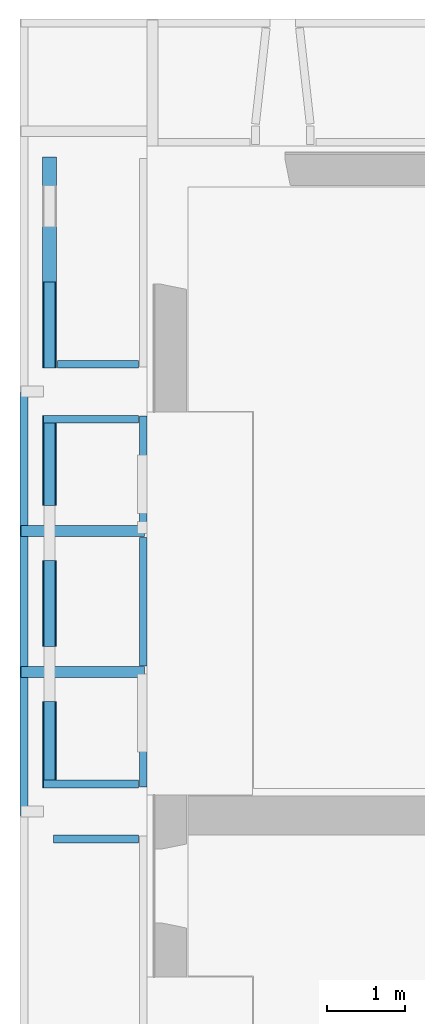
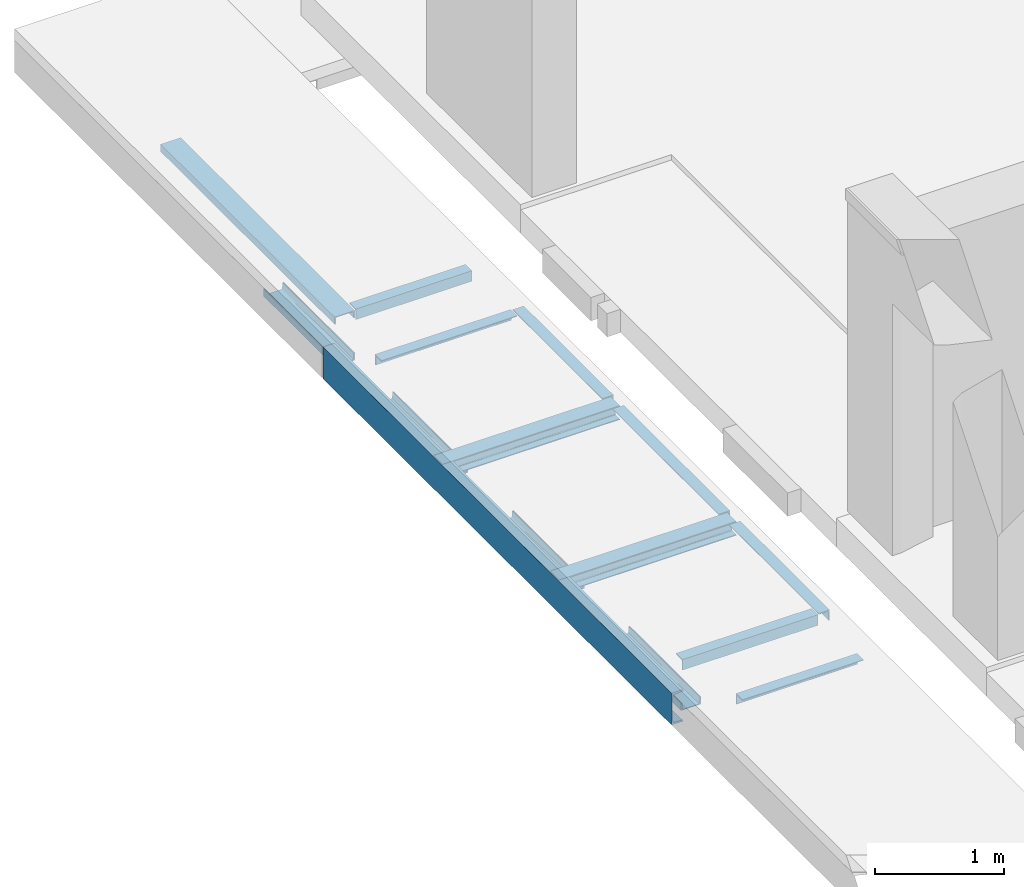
# One storey, part 4 of 27: 15 beams.
"""IFC2X3 building model written with IfcOpenShell, lengths in millimetres."""

from ifc_helpers import new_model, entity, si_unit, converted_unit, derived_unit, direction, frame, frame_2d, origin, place, context, subcontext, project, spatial, polyline, circle_curve, parameter, trimmed, segment, composite_curve, i_section, outline, extrude, material, type_object, element, save


model = new_model("IFC2X3")

# Units and contexts
model_context = context("Model", 3, precision=0.01, world=origin(), true_north=direction((6.12303176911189e-17, 1.0)))
body_context = subcontext(model_context, "Body", "Model", "MODEL_VIEW")
ifc_project = project(units=[si_unit("LENGTHUNIT", "METRE", prefix="MILLI"), si_unit("AREAUNIT", "SQUARE_METRE"), si_unit("VOLUMEUNIT", "CUBIC_METRE"), converted_unit("PLANEANGLEUNIT", "DEGREE", entity("IfcRatioMeasure", 0.0174532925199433), si_unit("PLANEANGLEUNIT", "RADIAN"), dimensions=[0, 0, 0, 0, 0, 0, 0]), si_unit("MASSUNIT", "GRAM", prefix="KILO"), derived_unit("MASSDENSITYUNIT", [(si_unit("MASSUNIT", "GRAM", prefix="KILO"), 1), (si_unit("LENGTHUNIT", "METRE"), -3)]), si_unit("TIMEUNIT", "SECOND"), si_unit("FREQUENCYUNIT", "HERTZ"), si_unit("THERMODYNAMICTEMPERATUREUNIT", "DEGREE_CELSIUS"), derived_unit("THERMALTRANSMITTANCEUNIT", [(si_unit("MASSUNIT", "GRAM", prefix="KILO"), 1), (si_unit("THERMODYNAMICTEMPERATUREUNIT", "KELVIN"), -1), (si_unit("TIMEUNIT", "SECOND"), -3)]), derived_unit("VOLUMETRICFLOWRATEUNIT", [(si_unit("LENGTHUNIT", "METRE"), 3), (si_unit("TIMEUNIT", "SECOND"), -1)]), si_unit("ELECTRICCURRENTUNIT", "AMPERE"), si_unit("ELECTRICVOLTAGEUNIT", "VOLT"), si_unit("POWERUNIT", "WATT"), si_unit("FORCEUNIT", "NEWTON", prefix="KILO"), si_unit("ILLUMINANCEUNIT", "LUX"), si_unit("LUMINOUSFLUXUNIT", "LUMEN"), si_unit("LUMINOUSINTENSITYUNIT", "CANDELA"), derived_unit("USERDEFINED", [(si_unit("MASSUNIT", "GRAM", prefix="KILO"), -1), (si_unit("LENGTHUNIT", "METRE"), -2), (si_unit("TIMEUNIT", "SECOND"), 3), (si_unit("LUMINOUSFLUXUNIT", "LUMEN"), 1)]), derived_unit("LINEARVELOCITYUNIT", [(si_unit("LENGTHUNIT", "METRE"), 1), (si_unit("TIMEUNIT", "SECOND"), -1)]), si_unit("PRESSUREUNIT", "PASCAL"), derived_unit("USERDEFINED", [(si_unit("LENGTHUNIT", "METRE"), -2), (si_unit("MASSUNIT", "GRAM", prefix="KILO"), 1), (si_unit("TIMEUNIT", "SECOND"), -2)])], contexts=[model_context])

# Site, building, storey
site_placement = place(None, origin())
site = spatial("IfcSite", under=ifc_project, at=site_placement, Name="Default", CompositionType="ELEMENT")
building_placement = place(site_placement, origin())
building = spatial("IfcBuilding", under=site, at=building_placement, Name="niet gebruiken", CompositionType="ELEMENT")
storey_placement = place(building_placement, frame((0.0, 0.0, 18000.0)))
storey = spatial("IfcBuildingStorey", under=building, at=storey_placement, Name="05 vijfde verdieping", CompositionType="ELEMENT", Elevation=18000.0)

# Beams
ifc_material = material(Name="NLRS_h2_staal")
beam_type_1 = type_object("IfcBeamType", Name="NLRS_28.11_SF_WPB_stalen ligger HEA_gen:ligger HEA 140", PredefinedType="BEAM")
beam_1_placement = place(storey_placement, frame((125990.0, 28325.0, -1015.0), z_axis=(0.0, 0.0, 1.0), x_axis=(-1.0, 0.0, 0.0)))
element("IfcBeam", 1, at=beam_1_placement, inside=storey, type_object=beam_type_1, material=ifc_material, Name="NLRS_28.11_SF_WPB_stalen ligger HEA_gen:ligger HEA 140", ObjectType="NLRS_28.11_SF_WPB_stalen ligger HEA_gen:ligger HEA 140", context=body_context, shape_type="SweptSolid", body=[
    extrude(i_section(OverallWidth=140.000000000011, OverallDepth=133.000000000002, WebThickness=5.4999999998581, FlangeThickness=8.50000000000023, FilletRadius=12.0000000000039, at=frame_2d((-3.24718030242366e-12, -4.32720526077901e-12), x_axis=(0.0, 1.0))), frame((0.0, 0.0, -66.5000000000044), z_axis=(1.0, 0.0, 0.0), x_axis=(0.0, 0.0, -1.0)), (0.0, 0.0, 1.0), 1579.99999999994),
])
beam_2_placement = place(storey_placement, frame((125990.0, 26525.0, -1015.0), z_axis=(0.0, 0.0, 1.0), x_axis=(-1.0, 0.0, 0.0)))
element("IfcBeam", 2, at=beam_2_placement, inside=storey, type_object=beam_type_1, material=ifc_material, Name="NLRS_28.11_SF_WPB_stalen ligger HEA_gen:ligger HEA 140", ObjectType="NLRS_28.11_SF_WPB_stalen ligger HEA_gen:ligger HEA 140", context=body_context, shape_type="SweptSolid", body=[
    extrude(i_section(OverallWidth=140.000000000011, OverallDepth=133.000000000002, WebThickness=5.4999999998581, FlangeThickness=8.50000000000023, FilletRadius=12.0000000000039, at=frame_2d((-3.24718030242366e-12, 0.0), x_axis=(0.0, 1.0))), frame((0.0, 0.0, -66.5000000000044), z_axis=(1.0, 0.0, 0.0), x_axis=(0.0, 0.0, -1.0)), (0.0, 0.0, 1.0), 1579.99999999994),
])
beam_type_2 = type_object("IfcBeamType", Name="NLRS_28.11_SF_WPB_stalen ligger UNP_gen:ligger UNP 300", PredefinedType="BEAM")
beam_3_placement = place(storey_placement, frame((124427.0, 30100.0, -1015.0), z_axis=(0.0, 0.0, 1.0), x_axis=(0.0, -1.0, 0.0)))
element("IfcBeam", 3, at=beam_3_placement, inside=storey, type_object=beam_type_2, material=ifc_material, Name="NLRS_28.11_SF_WPB_stalen ligger UNP_gen:ligger UNP 300", ObjectType="NLRS_28.11_SF_WPB_stalen ligger UNP_gen:ligger UNP 300", context=body_context, shape_type="SweptSolid", body=[
    extrude(outline(composite_curve([segment(polyline([(-150.062397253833, -54.6666666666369), (149.937602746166, -54.6666666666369)]), True, "CONTINUOUS"), segment(polyline([(149.937602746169, -54.6666666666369), (149.937602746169, 45.3333333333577)]), True, "CONTINUOUS"), segment(polyline([(149.937602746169, 45.3333333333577), (142.655201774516, 45.3333333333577)]), True, "CONTINUOUS"), segment(trimmed(circle_curve(frame_2d((142.655201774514, 37.3333333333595), x_axis=(0.0, 1.0)), 7.99999999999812), [parameter(0.0)], [parameter(90.0000000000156)], True, "PARAMETER"), True, "CONTINUOUS"), segment(polyline([(134.655201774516, 37.3333333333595), (130.39041273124, -28.6666666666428)]), True, "CONTINUOUS"), segment(trimmed(circle_curve(frame_2d((114.39041273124, -28.6666666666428), x_axis=(1.0, 0.0)), 15.9999999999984), [parameter(270.0)], [parameter(0.0)], True, "PARAMETER"), False, "CONTINUOUS"), segment(polyline([(114.390412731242, -44.6666666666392), (-113.875860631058, -44.6666666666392)]), True, "CONTINUOUS"), segment(trimmed(circle_curve(frame_2d((-113.875860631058, -28.6666666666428), x_axis=(0.0, -1.0)), 15.9999999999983), [parameter(270.0)], [parameter(0.0)], True, "PARAMETER"), False, "CONTINUOUS"), segment(polyline([(-129.875860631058, -28.6666666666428), (-135.044959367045, 37.3333333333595)]), True, "CONTINUOUS"), segment(trimmed(circle_curve(frame_2d((-143.044959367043, 37.3333333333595), x_axis=(1.0, 0.0)), 7.9999999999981), [parameter(0.0)], [parameter(90.0000000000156)], True, "PARAMETER"), True, "CONTINUOUS"), segment(polyline([(-143.044959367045, 45.3333333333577), (-150.062397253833, 45.3333333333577)]), True, "CONTINUOUS"), segment(polyline([(-150.062397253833, 45.3333333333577), (-150.062397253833, -54.6666666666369)]), True, "CONTINUOUS")], self_intersect=False)), frame((12.7000006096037, 27.6666666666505, -150.062397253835), z_axis=(1.0, 0.0, 0.0), x_axis=(0.0, 0.0, -1.0)), (0.0, 0.0, 1.0), 5387.29999939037),
])
beam_type_3 = type_object("IfcBeamType", Name="NLRS_28.11_SF_WPB_stalen ligger hoekprofiel gelijkzijdig_gen:ligger gelijzijdig hoekprofiel LEQU_100x100x10", PredefinedType="BEAM")
beam_4_placement = place(storey_placement, frame((126020.0, 28255.0, -1015.0), z_axis=(0.0, 0.0, 1.0), x_axis=(0.0, -1.0, 0.0)))
element("IfcBeam", 4, at=beam_4_placement, inside=storey, type_object=beam_type_3, material=ifc_material, Name="NLRS_28.11_SF_WPB_stalen ligger hoekprofiel gelijkzijdig_gen:ligger gelijzijdig hoekprofiel LEQU_100x100x10", ObjectType="NLRS_28.11_SF_WPB_stalen ligger hoekprofiel gelijkzijdig_gen:ligger gelijzijdig hoekprofiel LEQU_100x100x10", context=body_context, shape_type="SweptSolid", body=[
    extrude(outline(composite_curve([segment(polyline([(-37.7777777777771, -62.2222222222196), (-33.7777777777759, -62.2222222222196)]), True, "CONTINUOUS"), segment(trimmed(circle_curve(frame_2d((-33.7777777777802, -56.2222222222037), x_axis=(0.0, -1.0)), 6.00000000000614), [parameter(0.0)], [parameter(89.9999999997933)], True, "PARAMETER"), True, "CONTINUOUS"), segment(polyline([(-27.7777777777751, -56.222222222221), (-27.7777777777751, 15.77777777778)]), True, "CONTINUOUS"), segment(trimmed(circle_curve(frame_2d((-15.7777777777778, 15.77777777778), x_axis=(-1.0, 0.0)), 11.9999999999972), [parameter(269.99999999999)], [parameter(0.0)], True, "PARAMETER"), False, "CONTINUOUS"), segment(polyline([(-15.7777777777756, 27.7777777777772), (56.2222222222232, 27.7777777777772)]), True, "CONTINUOUS"), segment(trimmed(circle_curve(frame_2d((56.2222222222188, 33.7777777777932), x_axis=(0.0, -1.0)), 6.00000000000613), [parameter(0.0)], [parameter(89.9999999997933)], True, "PARAMETER"), True, "CONTINUOUS"), segment(polyline([(62.222222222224, 33.7777777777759), (62.222222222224, 37.777777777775)]), True, "CONTINUOUS"), segment(polyline([(62.222222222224, 37.777777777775), (-37.7777777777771, 37.777777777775)]), True, "CONTINUOUS"), segment(polyline([(-37.7777777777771, 37.777777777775), (-37.7777777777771, -62.2222222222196)]), True, "CONTINUOUS")], self_intersect=False)), frame((10.0, -37.777777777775, -37.7777777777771), z_axis=(1.0, 0.0, 0.0), x_axis=(0.0, 0.0, -1.0)), (0.0, 0.0, 1.0), 1639.99999999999),
])
beam_5_placement = place(storey_placement, frame((126020.0, 30013.0, -1015.0), z_axis=(0.0, 0.0, 1.0), x_axis=(0.0, -1.0, 0.0)))
element("IfcBeam", 5, at=beam_5_placement, inside=storey, type_object=beam_type_3, material=ifc_material, Name="NLRS_28.11_SF_WPB_stalen ligger hoekprofiel gelijkzijdig_gen:ligger gelijzijdig hoekprofiel LEQU_100x100x10", ObjectType="NLRS_28.11_SF_WPB_stalen ligger hoekprofiel gelijkzijdig_gen:ligger gelijzijdig hoekprofiel LEQU_100x100x10", context=body_context, shape_type="SweptSolid", body=[
    extrude(outline(composite_curve([segment(polyline([(-37.7777777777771, -62.2222222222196), (-33.7777777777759, -62.2222222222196)]), True, "CONTINUOUS"), segment(trimmed(circle_curve(frame_2d((-33.7777777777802, -56.2222222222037), x_axis=(0.0, -1.0)), 6.00000000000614), [parameter(0.0)], [parameter(89.9999999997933)], True, "PARAMETER"), True, "CONTINUOUS"), segment(polyline([(-27.7777777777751, -56.222222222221), (-27.7777777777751, 15.77777777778)]), True, "CONTINUOUS"), segment(trimmed(circle_curve(frame_2d((-15.7777777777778, 15.77777777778), x_axis=(-1.0, 0.0)), 11.9999999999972), [parameter(269.99999999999)], [parameter(0.0)], True, "PARAMETER"), False, "CONTINUOUS"), segment(polyline([(-15.7777777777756, 27.7777777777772), (56.2222222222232, 27.7777777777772)]), True, "CONTINUOUS"), segment(trimmed(circle_curve(frame_2d((56.2222222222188, 33.7777777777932), x_axis=(0.0, -1.0)), 6.00000000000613), [parameter(0.0)], [parameter(89.9999999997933)], True, "PARAMETER"), True, "CONTINUOUS"), segment(polyline([(62.222222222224, 33.7777777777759), (62.222222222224, 37.777777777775)]), True, "CONTINUOUS"), segment(polyline([(62.222222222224, 37.777777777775), (-37.7777777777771, 37.777777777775)]), True, "CONTINUOUS"), segment(polyline([(-37.7777777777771, 37.777777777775), (-37.7777777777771, -62.2222222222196)]), True, "CONTINUOUS")], self_intersect=False)), frame((223.0, -37.777777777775, -37.7777777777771), z_axis=(1.0, 0.0, 0.0), x_axis=(0.0, 0.0, -1.0)), (0.0, 0.0, 1.0), 1384.99999999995),
])
beam_6_placement = place(storey_placement, frame((126020.0, 26455.0, -1015.0), z_axis=(0.0, 0.0, 1.0), x_axis=(0.0, -1.0, 0.0)))
element("IfcBeam", 6, at=beam_6_placement, inside=storey, type_object=beam_type_3, material=ifc_material, Name="NLRS_28.11_SF_WPB_stalen ligger hoekprofiel gelijkzijdig_gen:ligger gelijzijdig hoekprofiel LEQU_100x100x10", ObjectType="NLRS_28.11_SF_WPB_stalen ligger hoekprofiel gelijkzijdig_gen:ligger gelijzijdig hoekprofiel LEQU_100x100x10", context=body_context, shape_type="SweptSolid", body=[
    extrude(outline(composite_curve([segment(polyline([(-37.7777777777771, -62.2222222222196), (-33.7777777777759, -62.2222222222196)]), True, "CONTINUOUS"), segment(trimmed(circle_curve(frame_2d((-33.7777777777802, -56.2222222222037), x_axis=(0.0, -1.0)), 6.00000000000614), [parameter(0.0)], [parameter(89.9999999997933)], True, "PARAMETER"), True, "CONTINUOUS"), segment(polyline([(-27.7777777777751, -56.222222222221), (-27.7777777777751, 15.77777777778)]), True, "CONTINUOUS"), segment(trimmed(circle_curve(frame_2d((-15.7777777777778, 15.77777777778), x_axis=(-1.0, 0.0)), 11.9999999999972), [parameter(269.99999999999)], [parameter(0.0)], True, "PARAMETER"), False, "CONTINUOUS"), segment(polyline([(-15.7777777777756, 27.7777777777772), (56.2222222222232, 27.7777777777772)]), True, "CONTINUOUS"), segment(trimmed(circle_curve(frame_2d((56.2222222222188, 33.7777777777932), x_axis=(0.0, -1.0)), 6.00000000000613), [parameter(0.0)], [parameter(89.9999999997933)], True, "PARAMETER"), True, "CONTINUOUS"), segment(polyline([(62.222222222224, 33.7777777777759), (62.222222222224, 37.777777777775)]), True, "CONTINUOUS"), segment(polyline([(62.222222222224, 37.777777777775), (-37.7777777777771, 37.777777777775)]), True, "CONTINUOUS"), segment(polyline([(-37.7777777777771, 37.777777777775), (-37.7777777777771, -62.2222222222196)]), True, "CONTINUOUS")], self_intersect=False)), frame((10.0, -37.777777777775, -37.7777777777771), z_axis=(1.0, 0.0, 0.0), x_axis=(0.0, 0.0, -1.0)), (0.0, 0.0, 1.0), 1382.30000000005),
])
beam_7_placement = place(storey_placement, frame((124700.0, 29800.0, -1015.0)))
element("IfcBeam", 7, at=beam_7_placement, inside=storey, type_object=beam_type_3, material=ifc_material, Name="NLRS_28.11_SF_WPB_stalen ligger hoekprofiel gelijkzijdig_gen:ligger gelijzijdig hoekprofiel LEQU_100x100x10", ObjectType="NLRS_28.11_SF_WPB_stalen ligger hoekprofiel gelijkzijdig_gen:ligger gelijzijdig hoekprofiel LEQU_100x100x10", context=body_context, shape_type="SweptSolid", body=[
    extrude(outline(composite_curve([segment(polyline([(-37.7777777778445, -62.222222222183), (-33.7777777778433, -62.222222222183)]), True, "CONTINUOUS"), segment(trimmed(circle_curve(frame_2d((-33.7777777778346, -56.2222222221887), x_axis=(0.0, -1.0)), 5.99999999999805), [parameter(0.0)], [parameter(90.0000000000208)], True, "PARAMETER"), True, "CONTINUOUS"), segment(polyline([(-27.777777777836, -56.2222222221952), (-27.777777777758, 15.77777777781)]), True, "CONTINUOUS"), segment(trimmed(circle_curve(frame_2d((-15.7777777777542, 15.7777777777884), x_axis=(-1.0, 0.0)), 12.0000000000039), [parameter(270.000000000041)], [parameter(0.0)], True, "PARAMETER"), False, "CONTINUOUS"), segment(polyline([(-15.7777777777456, 27.7777777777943), (56.2222222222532, 27.7777777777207)]), True, "CONTINUOUS"), segment(trimmed(circle_curve(frame_2d((56.2222222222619, 33.777777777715), x_axis=(0.0, -1.0)), 5.99999999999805), [parameter(0.0)], [parameter(90.0000000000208)], True, "PARAMETER"), True, "CONTINUOUS"), segment(polyline([(62.2222222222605, 33.7777777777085), (62.2222222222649, 37.7777777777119)]), True, "CONTINUOUS"), segment(polyline([(62.2222222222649, 37.7777777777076), (-37.7777777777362, 37.7777777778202)]), True, "CONTINUOUS"), segment(polyline([(-37.7777777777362, 37.7777777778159), (-37.7777777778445, -62.2222222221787)]), True, "CONTINUOUS")], self_intersect=False)), frame((6.09590967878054e-07, -37.777777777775, -37.7777777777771), z_axis=(1.0, 0.0, 0.0), x_axis=(0.0, 0.0, -1.0)), (0.0, 0.0, 1.0), 1209.03787794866),
])
beam_8_placement = place(storey_placement, frame((124865.0, 30400.0, -1015.0)))
element("IfcBeam", 8, at=beam_8_placement, inside=storey, type_object=beam_type_3, material=ifc_material, Name="NLRS_28.11_SF_WPB_stalen ligger hoekprofiel gelijkzijdig_gen:ligger gelijzijdig hoekprofiel LEQU_100x100x10", ObjectType="NLRS_28.11_SF_WPB_stalen ligger hoekprofiel gelijkzijdig_gen:ligger gelijzijdig hoekprofiel LEQU_100x100x10", context=body_context, shape_type="SweptSolid", body=[
    extrude(outline(composite_curve([segment(polyline([(-37.7777777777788, -37.777777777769), (62.2222222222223, -37.777777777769)]), True, "CONTINUOUS"), segment(polyline([(62.2222222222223, -37.7777777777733), (62.2222222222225, -33.7777777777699)]), True, "CONTINUOUS"), segment(trimmed(circle_curve(frame_2d((56.2222222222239, -33.7777777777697), x_axis=(1.0, 0.0)), 5.99999999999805), [parameter(0.0)], [parameter(90.0000000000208)], True, "PARAMETER"), True, "CONTINUOUS"), segment(polyline([(56.222222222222, -27.7777777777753), (-15.7777777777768, -27.7777777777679)]), True, "CONTINUOUS"), segment(trimmed(circle_curve(frame_2d((-15.777777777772, -15.777777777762), x_axis=(0.0, -1.0)), 12.0000000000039), [parameter(270.000000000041)], [parameter(0.0)], True, "PARAMETER"), False, "CONTINUOUS"), segment(polyline([(-27.7777777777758, -15.7777777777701), (-27.7777777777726, 56.2222222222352)]), True, "CONTINUOUS"), segment(trimmed(circle_curve(frame_2d((-33.7777777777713, 56.2222222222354), x_axis=(1.0, 0.0)), 5.99999999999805), [parameter(0.0)], [parameter(90.0000000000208)], True, "PARAMETER"), True, "CONTINUOUS"), segment(polyline([(-33.7777777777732, 62.2222222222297), (-37.7777777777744, 62.2222222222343)]), True, "CONTINUOUS"), segment(polyline([(-37.7777777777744, 62.2222222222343), (-37.7777777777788, -37.7777777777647)]), True, "CONTINUOUS")], self_intersect=False)), frame((10.0000006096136, 37.7777777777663, -37.7777777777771), z_axis=(1.0, 0.0, 0.0), x_axis=(0.0, 0.0, -1.0)), (0.0, 0.0, 1.0), 1034.03787794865),
])
beam_9_placement = place(storey_placement, frame((124820.0, 24450.0, -1015.0)))
element("IfcBeam", 9, at=beam_9_placement, inside=storey, type_object=beam_type_3, material=ifc_material, Name="NLRS_28.11_SF_WPB_stalen ligger hoekprofiel gelijkzijdig_gen:ligger gelijzijdig hoekprofiel LEQU_100x100x10", ObjectType="NLRS_28.11_SF_WPB_stalen ligger hoekprofiel gelijkzijdig_gen:ligger gelijzijdig hoekprofiel LEQU_100x100x10", context=body_context, shape_type="SweptSolid", body=[
    extrude(outline(composite_curve([segment(polyline([(-37.7777777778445, -62.2222222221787), (-33.7777777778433, -62.2222222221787)]), True, "CONTINUOUS"), segment(trimmed(circle_curve(frame_2d((-33.7777777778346, -56.2222222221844), x_axis=(0.0, -1.0)), 5.99999999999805), [parameter(0.0)], [parameter(90.0000000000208)], True, "PARAMETER"), True, "CONTINUOUS"), segment(polyline([(-27.777777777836, -56.2222222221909), (-27.777777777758, 15.7777777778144)]), True, "CONTINUOUS"), segment(trimmed(circle_curve(frame_2d((-15.7777777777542, 15.7777777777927), x_axis=(-1.0, 0.0)), 12.0000000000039), [parameter(270.000000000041)], [parameter(0.0)], True, "PARAMETER"), False, "CONTINUOUS"), segment(polyline([(-15.7777777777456, 27.7777777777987), (56.2222222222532, 27.777777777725)]), True, "CONTINUOUS"), segment(trimmed(circle_curve(frame_2d((56.2222222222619, 33.7777777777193), x_axis=(0.0, -1.0)), 5.99999999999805), [parameter(0.0)], [parameter(90.0000000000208)], True, "PARAMETER"), True, "CONTINUOUS"), segment(polyline([(62.2222222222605, 33.7777777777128), (62.2222222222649, 37.7777777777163)]), True, "CONTINUOUS"), segment(polyline([(62.2222222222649, 37.7777777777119), (-37.7777777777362, 37.7777777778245)]), True, "CONTINUOUS"), segment(polyline([(-37.7777777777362, 37.7777777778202), (-37.7777777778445, -62.2222222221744)]), True, "CONTINUOUS")], self_intersect=False)), frame((10.0000006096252, -37.7777777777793, -37.7777777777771), z_axis=(1.0, 0.0, 0.0), x_axis=(0.0, 0.0, -1.0)), (0.0, 0.0, 1.0), 1079.03787794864),
])
beam_10_placement = place(storey_placement, frame((124700.0, 25050.0, -1015.0)))
element("IfcBeam", 10, at=beam_10_placement, inside=storey, type_object=beam_type_3, material=ifc_material, Name="NLRS_28.11_SF_WPB_stalen ligger hoekprofiel gelijkzijdig_gen:ligger gelijzijdig hoekprofiel LEQU_100x100x10", ObjectType="NLRS_28.11_SF_WPB_stalen ligger hoekprofiel gelijkzijdig_gen:ligger gelijzijdig hoekprofiel LEQU_100x100x10", context=body_context, shape_type="SweptSolid", body=[
    extrude(outline(composite_curve([segment(polyline([(-37.7777777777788, -37.7777777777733), (62.2222222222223, -37.7777777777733)]), True, "CONTINUOUS"), segment(polyline([(62.2222222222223, -37.7777777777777), (62.2222222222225, -33.7777777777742)]), True, "CONTINUOUS"), segment(trimmed(circle_curve(frame_2d((56.2222222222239, -33.777777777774), x_axis=(1.0, 0.0)), 5.99999999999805), [parameter(0.0)], [parameter(90.0000000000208)], True, "PARAMETER"), True, "CONTINUOUS"), segment(polyline([(56.222222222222, -27.7777777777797), (-15.7777777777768, -27.7777777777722)]), True, "CONTINUOUS"), segment(trimmed(circle_curve(frame_2d((-15.777777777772, -15.7777777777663), x_axis=(0.0, -1.0)), 12.0000000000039), [parameter(270.000000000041)], [parameter(0.0)], True, "PARAMETER"), False, "CONTINUOUS"), segment(polyline([(-27.7777777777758, -15.7777777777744), (-27.7777777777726, 56.2222222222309)]), True, "CONTINUOUS"), segment(trimmed(circle_curve(frame_2d((-33.7777777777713, 56.2222222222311), x_axis=(1.0, 0.0)), 5.99999999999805), [parameter(0.0)], [parameter(90.0000000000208)], True, "PARAMETER"), True, "CONTINUOUS"), segment(polyline([(-33.7777777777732, 62.2222222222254), (-37.7777777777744, 62.2222222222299)]), True, "CONTINUOUS"), segment(polyline([(-37.7777777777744, 62.2222222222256), (-37.7777777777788, -37.777777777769)]), True, "CONTINUOUS")], self_intersect=False)), frame((6.09631382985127e-07, 37.7777777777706, -37.7777777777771), z_axis=(1.0, 0.0, 0.0), x_axis=(0.0, 0.0, -1.0)), (0.0, 0.0, 1.0), 1209.03787794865),
])
beam_type_4 = type_object("IfcBeamType", Name="NLRS_28.11_SF_WPB_stalen ligger UNP_gen:ligger UNP 180", PredefinedType="BEAM")
beam_11_placement = place(storey_placement, frame((124685.0, 26150.0, -1492.0), z_axis=(0.0, 0.0, 1.0), x_axis=(0.0, -1.0, 0.0)))
element("IfcBeam", 11, at=beam_11_placement, inside=storey, type_object=beam_type_4, material=ifc_material, Name="NLRS_28.11_SF_WPB_stalen ligger UNP_gen:ligger UNP 180", ObjectType="NLRS_28.11_SF_WPB_stalen ligger UNP_gen:ligger UNP 180", context=body_context, shape_type="SweptSolid", body=[
    extrude(outline(composite_curve([segment(polyline([(-31.4166666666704, -90.062397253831), (38.5833333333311, -90.062397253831)]), True, "CONTINUOUS"), segment(polyline([(38.5833333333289, -90.062397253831), (38.5833333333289, 89.9376027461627)]), True, "CONTINUOUS"), segment(polyline([(38.5833333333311, 89.9376027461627), (-31.4166666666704, 89.9376027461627)]), True, "CONTINUOUS"), segment(polyline([(-31.4166666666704, 89.9376027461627), (-31.4166666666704, 84.8052017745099)]), True, "CONTINUOUS"), segment(trimmed(circle_curve(frame_2d((-25.9166666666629, 84.8052017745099), x_axis=(-1.0, 0.0)), 5.50000000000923), [parameter(0.0)], [parameter(89.9999999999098)], True, "PARAMETER"), True, "CONTINUOUS"), segment(polyline([(-25.9166666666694, 79.3052017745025), (19.5833333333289, 76.6504127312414)]), True, "CONTINUOUS"), segment(trimmed(circle_curve(frame_2d((19.5833333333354, 65.6504127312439), x_axis=(0.0, 1.0)), 10.9999999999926), [parameter(269.999999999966)], [parameter(0.0)], True, "PARAMETER"), False, "CONTINUOUS"), segment(polyline([(30.5833333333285, 65.6504127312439), (30.5833333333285, -65.1358606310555)]), True, "CONTINUOUS"), segment(trimmed(circle_curve(frame_2d((19.5833333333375, -65.1358606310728), x_axis=(1.0, 0.0)), 10.9999999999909), [parameter(269.999999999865)], [parameter(0.0)], True, "PARAMETER"), False, "CONTINUOUS"), segment(polyline([(19.5833333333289, -76.1358606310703), (-25.9166666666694, -79.6949593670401)]), True, "CONTINUOUS"), segment(trimmed(circle_curve(frame_2d((-25.9166666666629, -85.1949593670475), x_axis=(0.0, 1.0)), 5.50000000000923), [parameter(0.0)], [parameter(89.9999999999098)], True, "PARAMETER"), True, "CONTINUOUS"), segment(polyline([(-31.4166666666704, -85.1949593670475), (-31.4166666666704, -90.0623972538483)]), True, "CONTINUOUS")], self_intersect=False)), frame((0.0, 90.062397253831, 38.5833333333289), z_axis=(1.0, 0.0, 0.0), x_axis=(0.0, 0.0, -1.0)), (0.0, 0.0, 1.0), 1100.0000000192),
])
beam_12_placement = place(storey_placement, frame((124685.0, 27950.0, -1492.0), z_axis=(0.0, 0.0, 1.0), x_axis=(0.0, -1.0, 0.0)))
element("IfcBeam", 12, at=beam_12_placement, inside=storey, type_object=beam_type_4, material=ifc_material, Name="NLRS_28.11_SF_WPB_stalen ligger UNP_gen:ligger UNP 180", ObjectType="NLRS_28.11_SF_WPB_stalen ligger UNP_gen:ligger UNP 180", context=body_context, shape_type="SweptSolid", body=[
    extrude(outline(composite_curve([segment(polyline([(-31.4166666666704, -90.062397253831), (38.5833333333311, -90.062397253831)]), True, "CONTINUOUS"), segment(polyline([(38.5833333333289, -90.062397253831), (38.5833333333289, 89.9376027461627)]), True, "CONTINUOUS"), segment(polyline([(38.5833333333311, 89.9376027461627), (-31.4166666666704, 89.9376027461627)]), True, "CONTINUOUS"), segment(polyline([(-31.4166666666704, 89.9376027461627), (-31.4166666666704, 84.8052017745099)]), True, "CONTINUOUS"), segment(trimmed(circle_curve(frame_2d((-25.9166666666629, 84.8052017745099), x_axis=(-1.0, 0.0)), 5.50000000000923), [parameter(0.0)], [parameter(89.9999999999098)], True, "PARAMETER"), True, "CONTINUOUS"), segment(polyline([(-25.9166666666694, 79.3052017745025), (19.5833333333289, 76.6504127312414)]), True, "CONTINUOUS"), segment(trimmed(circle_curve(frame_2d((19.5833333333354, 65.6504127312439), x_axis=(0.0, 1.0)), 10.9999999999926), [parameter(269.999999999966)], [parameter(0.0)], True, "PARAMETER"), False, "CONTINUOUS"), segment(polyline([(30.5833333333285, 65.6504127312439), (30.5833333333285, -65.1358606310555)]), True, "CONTINUOUS"), segment(trimmed(circle_curve(frame_2d((19.5833333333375, -65.1358606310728), x_axis=(1.0, 0.0)), 10.9999999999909), [parameter(269.999999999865)], [parameter(0.0)], True, "PARAMETER"), False, "CONTINUOUS"), segment(polyline([(19.5833333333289, -76.1358606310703), (-25.9166666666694, -79.6949593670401)]), True, "CONTINUOUS"), segment(trimmed(circle_curve(frame_2d((-25.9166666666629, -85.1949593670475), x_axis=(0.0, 1.0)), 5.50000000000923), [parameter(0.0)], [parameter(89.9999999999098)], True, "PARAMETER"), True, "CONTINUOUS"), segment(polyline([(-31.4166666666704, -85.1949593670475), (-31.4166666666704, -90.0623972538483)]), True, "CONTINUOUS")], self_intersect=False)), frame((0.0, 90.062397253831, 38.5833333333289), z_axis=(1.0, 0.0, 0.0), x_axis=(0.0, 0.0, -1.0)), (0.0, 0.0, 1.0), 1100.0000000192),
])
beam_13_placement = place(storey_placement, frame((124685.0, 29800.0, -1492.0), z_axis=(0.0, 0.0, 1.0), x_axis=(0.0, -1.0, 0.0)))
element("IfcBeam", 13, at=beam_13_placement, inside=storey, type_object=beam_type_4, material=ifc_material, Name="NLRS_28.11_SF_WPB_stalen ligger UNP_gen:ligger UNP 180", ObjectType="NLRS_28.11_SF_WPB_stalen ligger UNP_gen:ligger UNP 180", context=body_context, shape_type="SweptSolid", body=[
    extrude(outline(composite_curve([segment(polyline([(-31.4166666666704, -90.062397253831), (38.5833333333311, -90.062397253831)]), True, "CONTINUOUS"), segment(polyline([(38.5833333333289, -90.062397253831), (38.5833333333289, 89.9376027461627)]), True, "CONTINUOUS"), segment(polyline([(38.5833333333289, 89.9376027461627), (-31.4166666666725, 89.9376027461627)]), True, "CONTINUOUS"), segment(polyline([(-31.4166666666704, 89.9376027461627), (-31.4166666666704, 84.8052017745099)]), True, "CONTINUOUS"), segment(trimmed(circle_curve(frame_2d((-25.9166666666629, 84.8052017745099), x_axis=(-1.0, 0.0)), 5.50000000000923), [parameter(0.0)], [parameter(89.9999999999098)], True, "PARAMETER"), True, "CONTINUOUS"), segment(polyline([(-25.9166666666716, 79.3052017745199), (19.5833333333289, 76.6504127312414)]), True, "CONTINUOUS"), segment(trimmed(circle_curve(frame_2d((19.5833333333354, 65.6504127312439), x_axis=(0.0, 1.0)), 10.9999999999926), [parameter(269.999999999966)], [parameter(0.0)], True, "PARAMETER"), False, "CONTINUOUS"), segment(polyline([(30.5833333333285, 65.6504127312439), (30.5833333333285, -65.1358606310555)]), True, "CONTINUOUS"), segment(trimmed(circle_curve(frame_2d((19.5833333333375, -65.1358606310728), x_axis=(1.0, 0.0)), 10.9999999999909), [parameter(269.999999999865)], [parameter(0.0)], True, "PARAMETER"), False, "CONTINUOUS"), segment(polyline([(19.5833333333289, -76.135860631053), (-25.9166666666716, -79.6949593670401)]), True, "CONTINUOUS"), segment(trimmed(circle_curve(frame_2d((-25.9166666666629, -85.1949593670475), x_axis=(0.0, 1.0)), 5.50000000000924), [parameter(0.0)], [parameter(89.9999999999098)], True, "PARAMETER"), True, "CONTINUOUS"), segment(polyline([(-31.4166666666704, -85.1949593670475), (-31.4166666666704, -90.062397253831)]), True, "CONTINUOUS")], self_intersect=False)), frame((0.0, 90.062397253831, 38.5833333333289), z_axis=(1.0, 0.0, 0.0), x_axis=(0.0, 0.0, -1.0)), (0.0, 0.0, 1.0), 1150.00000000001),
])
beam_14_placement = place(storey_placement, frame((124685.0, 31500.0, -1492.0), z_axis=(0.0, 0.0, 1.0), x_axis=(0.0, -1.0, 0.0)))
element("IfcBeam", 14, at=beam_14_placement, inside=storey, type_object=beam_type_4, material=ifc_material, Name="NLRS_28.11_SF_WPB_stalen ligger UNP_gen:ligger UNP 180", ObjectType="NLRS_28.11_SF_WPB_stalen ligger UNP_gen:ligger UNP 180", context=body_context, shape_type="SweptSolid", body=[
    extrude(outline(composite_curve([segment(polyline([(-31.4166666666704, -90.062397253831), (38.5833333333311, -90.062397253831)]), True, "CONTINUOUS"), segment(polyline([(38.5833333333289, -90.062397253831), (38.5833333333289, 89.9376027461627)]), True, "CONTINUOUS"), segment(polyline([(38.5833333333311, 89.9376027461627), (-31.4166666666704, 89.9376027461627)]), True, "CONTINUOUS"), segment(polyline([(-31.4166666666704, 89.9376027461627), (-31.4166666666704, 84.8052017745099)]), True, "CONTINUOUS"), segment(trimmed(circle_curve(frame_2d((-25.9166666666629, 84.8052017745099), x_axis=(-1.0, 0.0)), 5.50000000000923), [parameter(0.0)], [parameter(89.9999999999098)], True, "PARAMETER"), True, "CONTINUOUS"), segment(polyline([(-25.9166666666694, 79.3052017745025), (19.5833333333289, 76.6504127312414)]), True, "CONTINUOUS"), segment(trimmed(circle_curve(frame_2d((19.5833333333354, 65.6504127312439), x_axis=(0.0, 1.0)), 10.9999999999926), [parameter(269.999999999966)], [parameter(0.0)], True, "PARAMETER"), False, "CONTINUOUS"), segment(polyline([(30.5833333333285, 65.6504127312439), (30.5833333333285, -65.1358606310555)]), True, "CONTINUOUS"), segment(trimmed(circle_curve(frame_2d((19.5833333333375, -65.1358606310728), x_axis=(1.0, 0.0)), 10.9999999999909), [parameter(269.999999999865)], [parameter(0.0)], True, "PARAMETER"), False, "CONTINUOUS"), segment(polyline([(19.5833333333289, -76.1358606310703), (-25.9166666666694, -79.6949593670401)]), True, "CONTINUOUS"), segment(trimmed(circle_curve(frame_2d((-25.9166666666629, -85.1949593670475), x_axis=(0.0, 1.0)), 5.50000000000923), [parameter(0.0)], [parameter(89.9999999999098)], True, "PARAMETER"), True, "CONTINUOUS"), segment(polyline([(-31.4166666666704, -85.1949593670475), (-31.4166666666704, -90.0623972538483)]), True, "CONTINUOUS")], self_intersect=False)), frame((0.0, 90.062397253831, 38.5833333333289), z_axis=(1.0, 0.0, 0.0), x_axis=(0.0, 0.0, -1.0)), (0.0, 0.0, 1.0), 1100.0000000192),
])
beam_15_placement = place(storey_placement, frame((124685.0, 33090.0, -1024.0), z_axis=(0.0, 0.0, 1.0), x_axis=(0.0, -1.0, 0.0)))
element("IfcBeam", 15, at=beam_15_placement, inside=storey, type_object=beam_type_4, material=ifc_material, Name="NLRS_28.11_SF_WPB_stalen ligger UNP_gen:ligger UNP 180", ObjectType="NLRS_28.11_SF_WPB_stalen ligger UNP_gen:ligger UNP 180", context=body_context, shape_type="SweptSolid", body=[
    extrude(outline(composite_curve([segment(polyline([(-38.5833333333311, -89.9376027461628), (31.4166666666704, -89.9376027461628)]), True, "CONTINUOUS"), segment(polyline([(31.4166666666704, -89.9376027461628), (31.4166666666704, -84.80520177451)]), True, "CONTINUOUS"), segment(trimmed(circle_curve(frame_2d((25.9166666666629, -84.80520177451), x_axis=(1.0, 0.0)), 5.50000000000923), [parameter(0.0)], [parameter(89.9999999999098)], True, "PARAMETER"), True, "CONTINUOUS"), segment(polyline([(25.9166666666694, -79.3052017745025), (-19.5833333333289, -76.6504127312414)]), True, "CONTINUOUS"), segment(trimmed(circle_curve(frame_2d((-19.5833333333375, -65.6504127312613), x_axis=(0.0, -1.0)), 10.9999999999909), [parameter(269.999999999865)], [parameter(0.0)], True, "PARAMETER"), False, "CONTINUOUS"), segment(polyline([(-30.5833333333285, -65.6504127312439), (-30.5833333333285, 65.1358606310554)]), True, "CONTINUOUS"), segment(trimmed(circle_curve(frame_2d((-19.5833333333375, 65.1358606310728), x_axis=(-1.0, 0.0)), 10.9999999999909), [parameter(269.999999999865)], [parameter(0.0)], True, "PARAMETER"), False, "CONTINUOUS"), segment(polyline([(-19.5833333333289, 76.1358606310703), (25.9166666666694, 79.6949593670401)]), True, "CONTINUOUS"), segment(trimmed(circle_curve(frame_2d((25.9166666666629, 85.1949593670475), x_axis=(0.0, -1.0)), 5.50000000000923), [parameter(0.0)], [parameter(89.9999999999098)], True, "PARAMETER"), True, "CONTINUOUS"), segment(polyline([(31.4166666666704, 85.1949593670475), (31.4166666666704, 90.0623972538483)]), True, "CONTINUOUS"), segment(polyline([(31.4166666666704, 90.062397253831), (-38.5833333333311, 90.062397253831)]), True, "CONTINUOUS"), segment(polyline([(-38.5833333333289, 90.062397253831), (-38.5833333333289, -89.9376027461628)]), True, "CONTINUOUS")], self_intersect=False)), frame((0.0, 89.9376027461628, -38.5833333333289), z_axis=(1.0, 0.0, 0.0), x_axis=(0.0, 0.0, -1.0)), (0.0, 0.0, 1.0), 2690.00000002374),
])

save(model, "model.ifc")
